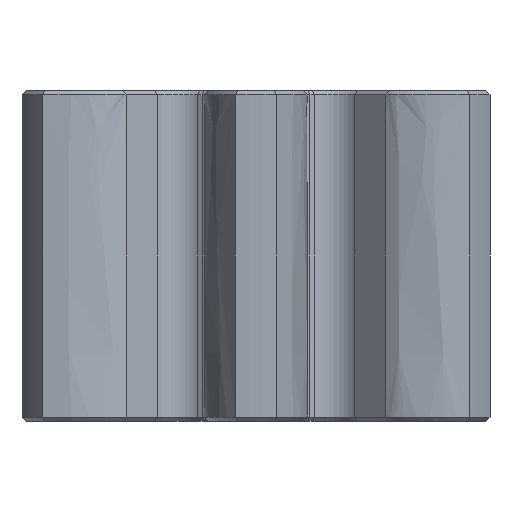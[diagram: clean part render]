
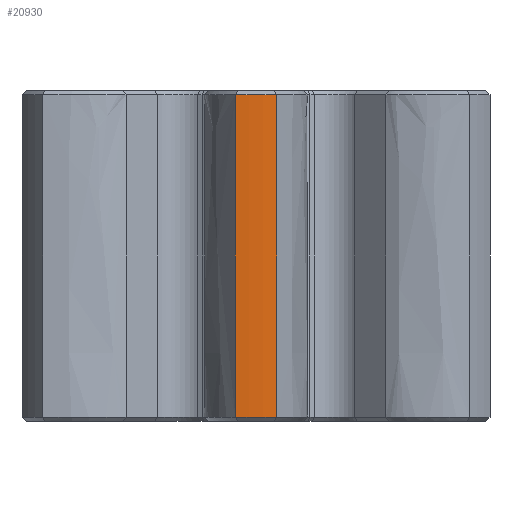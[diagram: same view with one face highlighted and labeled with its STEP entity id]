
A CAD part, left-side view. The second image highlights one B-rep face of the part: STEP entity #20930.
In plain terms, the highlighted cylindrical face has radius 23.5 mm (diameter 47 mm), a partial arc.
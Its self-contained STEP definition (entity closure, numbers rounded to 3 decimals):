
#3379 = CONICAL_SURFACE('',#3380,23.5,0.785);
#3380 = AXIS2_PLACEMENT_3D('',#3381,#3382,#3383);
#3381 = CARTESIAN_POINT('',(0.,0.,0.4));
#3382 = DIRECTION('',(0.,0.,1.));
#3383 = DIRECTION('',(-0.997,0.079,0.));
#8584 = CONICAL_SURFACE('',#8585,23.5,0.785);
#8585 = AXIS2_PLACEMENT_3D('',#8586,#8587,#8588);
#8586 = CARTESIAN_POINT('',(0.,0.,29.6));
#8587 = DIRECTION('',(-0.,-0.,-1.));
#8588 = DIRECTION('',(-0.997,-0.079,0.));
#15387 = VERTEX_POINT('',#15388);
#15388 = CARTESIAN_POINT('',(-23.426,1.862,
    0.4));
#15461 = SURFACE_OF_LINEAR_EXTRUSION('',#15462,#15471);
#15462 = B_SPLINE_CURVE_WITH_KNOTS('',3,(#15463,#15464,#15465,#15466,
    #15467,#15468,#15469,#15470),.UNSPECIFIED.,.F.,.F.,(4,1,1,1,1,4),(0.
    ,0.342,1.369,3.08,5.476,
    8.555),.UNSPECIFIED.);
#15463 = CARTESIAN_POINT('',(-16.271,4.621,0.));
#15464 = CARTESIAN_POINT('',(-16.383,4.643,0.));
#15465 = CARTESIAN_POINT('',(-16.835,4.708,0.));
#15466 = CARTESIAN_POINT('',(-17.87,4.639,0.));
#15467 = CARTESIAN_POINT('',(-19.539,4.226,0.));
#15468 = CARTESIAN_POINT('',(-21.718,3.197,0.));
#15469 = CARTESIAN_POINT('',(-23.196,2.082,0.));
#15470 = CARTESIAN_POINT('',(-23.959,1.41,0.));
#15471 = VECTOR('',#15472,1.);
#15472 = DIRECTION('',(-0.,-0.,-1.));
#15658 = VERTEX_POINT('',#15659);
#15659 = CARTESIAN_POINT('',(-23.426,-1.862,0.4));
#15686 = EDGE_CURVE('',#15387,#15658,#15687,.T.);
#15687 = SURFACE_CURVE('',#15688,(#15693,#15700),.PCURVE_S1.);
#15688 = CIRCLE('',#15689,23.5);
#15689 = AXIS2_PLACEMENT_3D('',#15690,#15691,#15692);
#15690 = CARTESIAN_POINT('',(0.,0.,0.4));
#15691 = DIRECTION('',(0.,0.,1.));
#15692 = DIRECTION('',(-0.997,0.079,0.));
#15693 = PCURVE('',#3379,#15694);
#15694 = DEFINITIONAL_REPRESENTATION('',(#15695),#15699);
#15695 = LINE('',#15696,#15697);
#15696 = CARTESIAN_POINT('',(0.,0.));
#15697 = VECTOR('',#15698,1.);
#15698 = DIRECTION('',(1.,0.));
#15699 = ( GEOMETRIC_REPRESENTATION_CONTEXT(2) 
PARAMETRIC_REPRESENTATION_CONTEXT() REPRESENTATION_CONTEXT('2D SPACE',''
  ) );
#15700 = PCURVE('',#15701,#15706);
#15701 = CYLINDRICAL_SURFACE('',#15702,23.5);
#15702 = AXIS2_PLACEMENT_3D('',#15703,#15704,#15705);
#15703 = CARTESIAN_POINT('',(0.,0.,0.));
#15704 = DIRECTION('',(-0.,-0.,-1.));
#15705 = DIRECTION('',(1.,0.,0.));
#15706 = DEFINITIONAL_REPRESENTATION('',(#15707),#15711);
#15707 = LINE('',#15708,#15709);
#15708 = CARTESIAN_POINT('',(-3.062,-0.4));
#15709 = VECTOR('',#15710,1.);
#15710 = DIRECTION('',(-1.,0.));
#15711 = ( GEOMETRIC_REPRESENTATION_CONTEXT(2) 
PARAMETRIC_REPRESENTATION_CONTEXT() REPRESENTATION_CONTEXT('2D SPACE',''
  ) );
#15844 = SURFACE_OF_LINEAR_EXTRUSION('',#15845,#15854);
#15845 = B_SPLINE_CURVE_WITH_KNOTS('',3,(#15846,#15847,#15848,#15849,
    #15850,#15851,#15852,#15853),.UNSPECIFIED.,.F.,.F.,(4,1,1,1,1,4),(0.
    ,3.08,5.475,7.186,8.213,
    8.555),.UNSPECIFIED.);
#15846 = CARTESIAN_POINT('',(-23.959,-1.41,0.));
#15847 = CARTESIAN_POINT('',(-23.196,-2.082,0.));
#15848 = CARTESIAN_POINT('',(-21.718,-3.197,0.));
#15849 = CARTESIAN_POINT('',(-19.539,-4.226,0.));
#15850 = CARTESIAN_POINT('',(-17.87,-4.639,0.));
#15851 = CARTESIAN_POINT('',(-16.835,-4.708,0.));
#15852 = CARTESIAN_POINT('',(-16.383,-4.643,0.));
#15853 = CARTESIAN_POINT('',(-16.271,-4.621,0.));
#15854 = VECTOR('',#15855,1.);
#15855 = DIRECTION('',(-0.,-0.,-1.));
#19286 = VERTEX_POINT('',#19287);
#19287 = CARTESIAN_POINT('',(-23.426,1.862,
    29.6));
#19527 = VERTEX_POINT('',#19528);
#19528 = CARTESIAN_POINT('',(-23.426,-1.862,29.6));
#19557 = EDGE_CURVE('',#19527,#19286,#19558,.T.);
#19558 = SURFACE_CURVE('',#19559,(#19564,#19571),.PCURVE_S1.);
#19559 = CIRCLE('',#19560,23.5);
#19560 = AXIS2_PLACEMENT_3D('',#19561,#19562,#19563);
#19561 = CARTESIAN_POINT('',(0.,0.,29.6));
#19562 = DIRECTION('',(-0.,0.,-1.));
#19563 = DIRECTION('',(-0.997,-0.079,0.));
#19564 = PCURVE('',#8584,#19565);
#19565 = DEFINITIONAL_REPRESENTATION('',(#19566),#19570);
#19566 = LINE('',#19567,#19568);
#19567 = CARTESIAN_POINT('',(0.,0.));
#19568 = VECTOR('',#19569,1.);
#19569 = DIRECTION('',(1.,0.));
#19570 = ( GEOMETRIC_REPRESENTATION_CONTEXT(2) 
PARAMETRIC_REPRESENTATION_CONTEXT() REPRESENTATION_CONTEXT('2D SPACE',''
  ) );
#19571 = PCURVE('',#15701,#19572);
#19572 = DEFINITIONAL_REPRESENTATION('',(#19573),#19577);
#19573 = LINE('',#19574,#19575);
#19574 = CARTESIAN_POINT('',(-3.221,-29.6));
#19575 = VECTOR('',#19576,1.);
#19576 = DIRECTION('',(1.,-0.));
#19577 = ( GEOMETRIC_REPRESENTATION_CONTEXT(2) 
PARAMETRIC_REPRESENTATION_CONTEXT() REPRESENTATION_CONTEXT('2D SPACE',''
  ) );
#20882 = EDGE_CURVE('',#19286,#15387,#20883,.T.);
#20883 = SURFACE_CURVE('',#20884,(#20887,#20893),.PCURVE_S1.);
#20884 = B_SPLINE_CURVE_WITH_KNOTS('',1,(#20885,#20886),.UNSPECIFIED.,
  .F.,.F.,(2,2),(0.,1.),.PIECEWISE_BEZIER_KNOTS.);
#20885 = CARTESIAN_POINT('',(-23.426,1.862,30.)
  );
#20886 = CARTESIAN_POINT('',(-23.426,1.862,0.));
#20887 = PCURVE('',#15461,#20888);
#20888 = DEFINITIONAL_REPRESENTATION('',(#20889),#20892);
#20889 = B_SPLINE_CURVE_WITH_KNOTS('',1,(#20890,#20891),.UNSPECIFIED.,
  .F.,.F.,(2,2),(0.,1.),.PIECEWISE_BEZIER_KNOTS.);
#20890 = CARTESIAN_POINT('',(7.853,-30.));
#20891 = CARTESIAN_POINT('',(7.853,0.));
#20892 = ( GEOMETRIC_REPRESENTATION_CONTEXT(2) 
PARAMETRIC_REPRESENTATION_CONTEXT() REPRESENTATION_CONTEXT('2D SPACE',''
  ) );
#20893 = PCURVE('',#15701,#20894);
#20894 = DEFINITIONAL_REPRESENTATION('',(#20895),#20898);
#20895 = B_SPLINE_CURVE_WITH_KNOTS('',1,(#20896,#20897),.UNSPECIFIED.,
  .F.,.F.,(2,2),(0.,1.),.PIECEWISE_BEZIER_KNOTS.);
#20896 = CARTESIAN_POINT('',(-3.062,-30.));
#20897 = CARTESIAN_POINT('',(-3.062,0.));
#20898 = ( GEOMETRIC_REPRESENTATION_CONTEXT(2) 
PARAMETRIC_REPRESENTATION_CONTEXT() REPRESENTATION_CONTEXT('2D SPACE',''
  ) );
#20930 = ADVANCED_FACE('',(#20931),#15701,.T.);
#20931 = FACE_BOUND('',#20932,.F.);
#20932 = EDGE_LOOP('',(#20933,#20951,#20952,#20953));
#20933 = ORIENTED_EDGE('',*,*,#20934,.T.);
#20934 = EDGE_CURVE('',#19527,#15658,#20935,.T.);
#20935 = SURFACE_CURVE('',#20936,(#20939,#20945),.PCURVE_S1.);
#20936 = B_SPLINE_CURVE_WITH_KNOTS('',1,(#20937,#20938),.UNSPECIFIED.,
  .F.,.F.,(2,2),(0.,1.),.PIECEWISE_BEZIER_KNOTS.);
#20937 = CARTESIAN_POINT('',(-23.426,-1.862,30.)
  );
#20938 = CARTESIAN_POINT('',(-23.426,-1.862,0.));
#20939 = PCURVE('',#15701,#20940);
#20940 = DEFINITIONAL_REPRESENTATION('',(#20941),#20944);
#20941 = B_SPLINE_CURVE_WITH_KNOTS('',1,(#20942,#20943),.UNSPECIFIED.,
  .F.,.F.,(2,2),(0.,1.),.PIECEWISE_BEZIER_KNOTS.);
#20942 = CARTESIAN_POINT('',(-3.221,-30.));
#20943 = CARTESIAN_POINT('',(-3.221,0.));
#20944 = ( GEOMETRIC_REPRESENTATION_CONTEXT(2) 
PARAMETRIC_REPRESENTATION_CONTEXT() REPRESENTATION_CONTEXT('2D SPACE',''
  ) );
#20945 = PCURVE('',#15844,#20946);
#20946 = DEFINITIONAL_REPRESENTATION('',(#20947),#20950);
#20947 = B_SPLINE_CURVE_WITH_KNOTS('',1,(#20948,#20949),.UNSPECIFIED.,
  .F.,.F.,(2,2),(0.,1.),.PIECEWISE_BEZIER_KNOTS.);
#20948 = CARTESIAN_POINT('',(0.703,-30.));
#20949 = CARTESIAN_POINT('',(0.703,0.));
#20950 = ( GEOMETRIC_REPRESENTATION_CONTEXT(2) 
PARAMETRIC_REPRESENTATION_CONTEXT() REPRESENTATION_CONTEXT('2D SPACE',''
  ) );
#20951 = ORIENTED_EDGE('',*,*,#15686,.F.);
#20952 = ORIENTED_EDGE('',*,*,#20882,.F.);
#20953 = ORIENTED_EDGE('',*,*,#19557,.F.);
